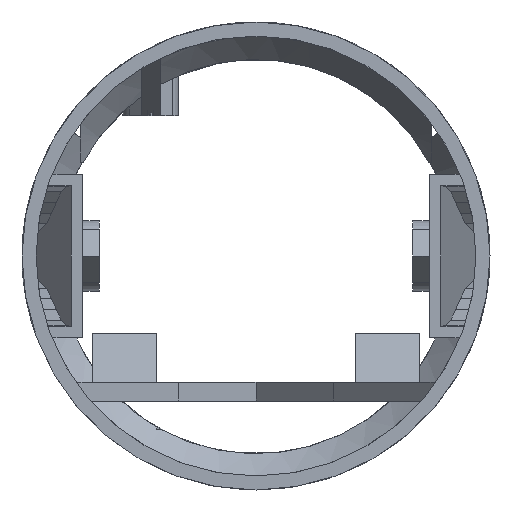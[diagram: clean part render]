
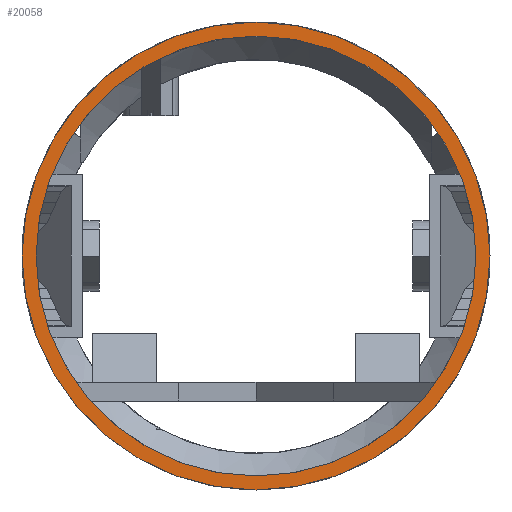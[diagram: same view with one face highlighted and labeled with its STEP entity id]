
A CAD part, left-side view. The second image highlights one B-rep face of the part: STEP entity #20058.
In plain terms, the highlighted planar face has unit normal (-1, 0, 0).
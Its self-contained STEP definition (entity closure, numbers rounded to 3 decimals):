
#21 = EDGE_CURVE('',#22,#22,#24,.T.);
#22 = VERTEX_POINT('',#23);
#23 = CARTESIAN_POINT('',(50.,20.,0.));
#24 = SURFACE_CURVE('',#25,(#30,#42),.PCURVE_S1.);
#25 = CIRCLE('',#26,20.);
#26 = AXIS2_PLACEMENT_3D('',#27,#28,#29);
#27 = CARTESIAN_POINT('',(50.,0.,0.));
#28 = DIRECTION('',(1.,0.,0.));
#29 = DIRECTION('',(-0.,1.,0.));
#30 = PCURVE('',#31,#36);
#31 = CYLINDRICAL_SURFACE('',#32,20.);
#32 = AXIS2_PLACEMENT_3D('',#33,#34,#35);
#33 = CARTESIAN_POINT('',(42.,0.,0.));
#34 = DIRECTION('',(1.,0.,0.));
#35 = DIRECTION('',(-0.,1.,0.));
#36 = DEFINITIONAL_REPRESENTATION('',(#37),#41);
#37 = LINE('',#38,#39);
#38 = CARTESIAN_POINT('',(0.,8.));
#39 = VECTOR('',#40,1.);
#40 = DIRECTION('',(1.,0.));
#41 = ( GEOMETRIC_REPRESENTATION_CONTEXT(2) 
PARAMETRIC_REPRESENTATION_CONTEXT() REPRESENTATION_CONTEXT('2D SPACE',''
  ) );
#42 = PCURVE('',#43,#48);
#43 = PLANE('',#44);
#44 = AXIS2_PLACEMENT_3D('',#45,#46,#47);
#45 = CARTESIAN_POINT('',(50.,-30.,-30.));
#46 = DIRECTION('',(1.,0.,-0.));
#47 = DIRECTION('',(0.,0.,1.));
#48 = DEFINITIONAL_REPRESENTATION('',(#49),#53);
#49 = CIRCLE('',#50,20.);
#50 = AXIS2_PLACEMENT_2D('',#51,#52);
#51 = CARTESIAN_POINT('',(30.,-30.));
#52 = DIRECTION('',(0.,-1.));
#53 = ( GEOMETRIC_REPRESENTATION_CONTEXT(2) 
PARAMETRIC_REPRESENTATION_CONTEXT() REPRESENTATION_CONTEXT('2D SPACE',''
  ) );
#3799 = CYLINDRICAL_SURFACE('',#3800,18.8);
#3800 = AXIS2_PLACEMENT_3D('',#3801,#3802,#3803);
#3801 = CARTESIAN_POINT('',(42.,0.,0.));
#3802 = DIRECTION('',(1.,0.,0.));
#3803 = DIRECTION('',(-0.,1.,0.));
#7886 = VERTEX_POINT('',#7887);
#7887 = CARTESIAN_POINT('',(50.,18.8,0.));
#7908 = EDGE_CURVE('',#7886,#7886,#7909,.T.);
#7909 = SURFACE_CURVE('',#7910,(#7915,#7922),.PCURVE_S1.);
#7910 = CIRCLE('',#7911,18.8);
#7911 = AXIS2_PLACEMENT_3D('',#7912,#7913,#7914);
#7912 = CARTESIAN_POINT('',(50.,0.,0.));
#7913 = DIRECTION('',(1.,0.,0.));
#7914 = DIRECTION('',(-0.,1.,0.));
#7915 = PCURVE('',#3799,#7916);
#7916 = DEFINITIONAL_REPRESENTATION('',(#7917),#7921);
#7917 = LINE('',#7918,#7919);
#7918 = CARTESIAN_POINT('',(0.,8.));
#7919 = VECTOR('',#7920,1.);
#7920 = DIRECTION('',(1.,0.));
#7921 = ( GEOMETRIC_REPRESENTATION_CONTEXT(2) 
PARAMETRIC_REPRESENTATION_CONTEXT() REPRESENTATION_CONTEXT('2D SPACE',''
  ) );
#7922 = PCURVE('',#43,#7923);
#7923 = DEFINITIONAL_REPRESENTATION('',(#7924),#7928);
#7924 = CIRCLE('',#7925,18.8);
#7925 = AXIS2_PLACEMENT_2D('',#7926,#7927);
#7926 = CARTESIAN_POINT('',(30.,-30.));
#7927 = DIRECTION('',(0.,-1.));
#7928 = ( GEOMETRIC_REPRESENTATION_CONTEXT(2) 
PARAMETRIC_REPRESENTATION_CONTEXT() REPRESENTATION_CONTEXT('2D SPACE',''
  ) );
#20058 = ADVANCED_FACE('',(#20059,#20062),#43,.F.);
#20059 = FACE_BOUND('',#20060,.F.);
#20060 = EDGE_LOOP('',(#20061));
#20061 = ORIENTED_EDGE('',*,*,#21,.T.);
#20062 = FACE_BOUND('',#20063,.F.);
#20063 = EDGE_LOOP('',(#20064));
#20064 = ORIENTED_EDGE('',*,*,#7908,.F.);
